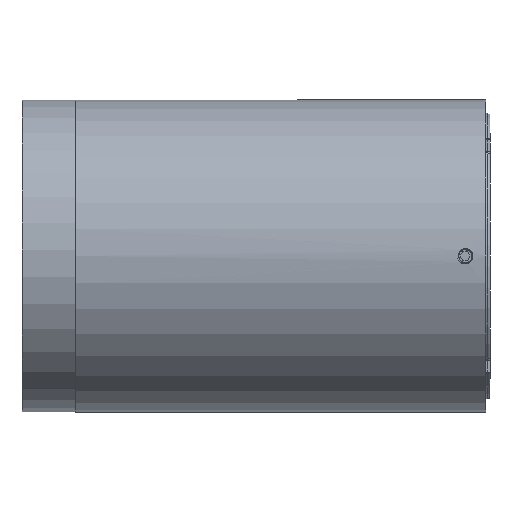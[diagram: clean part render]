
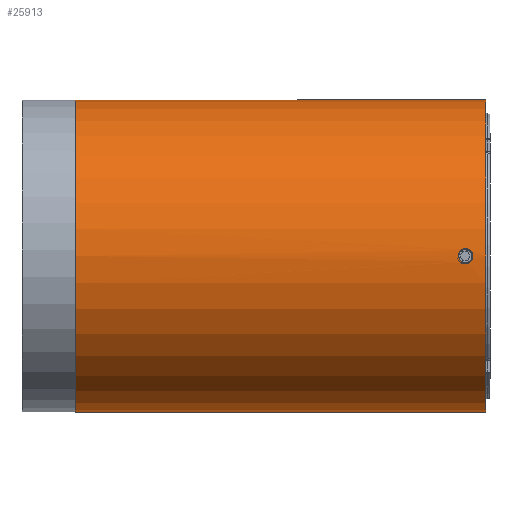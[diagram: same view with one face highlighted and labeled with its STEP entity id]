
A CAD part, left-side view. The second image highlights one B-rep face of the part: STEP entity #25913.
In plain terms, the highlighted cylindrical face has radius 38 mm (diameter 76 mm), a partial arc.
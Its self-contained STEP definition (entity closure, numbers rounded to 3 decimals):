
#1440=B_SPLINE_CURVE_WITH_KNOTS('',3,(#52475,#52476,#52477,#52478,#52479,
#52480,#52481,#52482,#52483,#52484,#52485,#52486,#52487,#52488,#52489,#52490,
#52491,#52492,#52493,#52494,#52495,#52496,#52497,#52498,#52499,#52500,#52501,
#52502),.UNSPECIFIED.,.F.,.F.,(4,3,3,3,3,3,3,3,3,4),(-0.964,
-0.942,-0.87,-0.816,-0.749,
-0.7,-0.629,-0.58,-0.508,
-0.482),.UNSPECIFIED.);
#1441=B_SPLINE_CURVE_WITH_KNOTS('',3,(#52522,#52523,#52524,#52525,#52526,
#52527,#52528,#52529,#52530,#52531,#52532,#52533,#52534,#52535,#52536,#52537,
#52538,#52539,#52540,#52541,#52542,#52543,#52544,#52545,#52546,#52547,#52548,
#52549),.UNSPECIFIED.,.F.,.F.,(4,3,3,3,3,3,3,3,3,4),(0.482,
0.508,0.58,0.629,0.7,
0.749,0.816,0.87,0.942,
0.964),.UNSPECIFIED.);
#1896=FACE_BOUND('',#5046,.T.);
#2285=LINE('',#52518,#2606);
#2286=LINE('',#52521,#2607);
#2606=VECTOR('',#34379,1000.);
#2607=VECTOR('',#34382,1000.);
#2764=CYLINDRICAL_SURFACE('',#28240,38.);
#3280=FACE_OUTER_BOUND('',#5045,.T.);
#5045=EDGE_LOOP('',(#18699,#18700,#18701,#18702));
#5046=EDGE_LOOP('',(#18703,#18704));
#6929=CIRCLE('',#28241,38.);
#6930=CIRCLE('',#28242,38.);
#10341=VERTEX_POINT('',#52472);
#10342=VERTEX_POINT('',#52474);
#10347=VERTEX_POINT('',#52514);
#10348=VERTEX_POINT('',#52515);
#10349=VERTEX_POINT('',#52517);
#10350=VERTEX_POINT('',#52519);
#13387=EDGE_CURVE('',#10341,#10342,#1440,.T.);
#13393=EDGE_CURVE('',#10347,#10348,#6929,.T.);
#13394=EDGE_CURVE('',#10348,#10349,#2285,.T.);
#13395=EDGE_CURVE('',#10350,#10349,#6930,.T.);
#13396=EDGE_CURVE('',#10347,#10350,#2286,.T.);
#13397=EDGE_CURVE('',#10342,#10341,#1441,.T.);
#18699=ORIENTED_EDGE('',*,*,#13393,.T.);
#18700=ORIENTED_EDGE('',*,*,#13394,.T.);
#18701=ORIENTED_EDGE('',*,*,#13395,.F.);
#18702=ORIENTED_EDGE('',*,*,#13396,.F.);
#18703=ORIENTED_EDGE('',*,*,#13397,.F.);
#18704=ORIENTED_EDGE('',*,*,#13387,.F.);
#25913=ADVANCED_FACE('',(#3280,#1896),#2764,.T.);
#28240=AXIS2_PLACEMENT_3D('',#52513,#34375,#34376);
#28241=AXIS2_PLACEMENT_3D('',#52516,#34377,#34378);
#28242=AXIS2_PLACEMENT_3D('',#52520,#34380,#34381);
#34375=DIRECTION('center_axis',(0.,-1.,0.));
#34376=DIRECTION('ref_axis',(0.,0.,
-1.));
#34377=DIRECTION('center_axis',(0.,-1.,0.));
#34378=DIRECTION('ref_axis',(0.,0.,
1.));
#34379=DIRECTION('',(0.,-1.,0.));
#34380=DIRECTION('center_axis',(0.,-1.,0.));
#34381=DIRECTION('ref_axis',(0.,0.,
-1.));
#34382=DIRECTION('',(0.,-1.,0.));
#52472=CARTESIAN_POINT('',(37.966,5.,1.6));
#52474=CARTESIAN_POINT('',(37.966,5.,-1.6));
#52475=CARTESIAN_POINT('Ctrl Pts',(37.966,5.,1.6));
#52476=CARTESIAN_POINT('Ctrl Pts',(37.966,4.924,1.6));
#52477=CARTESIAN_POINT('Ctrl Pts',(37.967,4.846,1.595));
#52478=CARTESIAN_POINT('Ctrl Pts',(37.967,4.767,1.583));
#52479=CARTESIAN_POINT('Ctrl Pts',(37.969,4.521,1.547));
#52480=CARTESIAN_POINT('Ctrl Pts',(37.973,4.274,1.448));
#52481=CARTESIAN_POINT('Ctrl Pts',(37.978,4.071,1.303));
#52482=CARTESIAN_POINT('Ctrl Pts',(37.981,3.918,1.194));
#52483=CARTESIAN_POINT('Ctrl Pts',(37.985,3.791,1.065));
#52484=CARTESIAN_POINT('Ctrl Pts',(37.989,3.684,0.91));
#52485=CARTESIAN_POINT('Ctrl Pts',(37.994,3.553,0.72));
#52486=CARTESIAN_POINT('Ctrl Pts',(37.997,3.461,0.494));
#52487=CARTESIAN_POINT('Ctrl Pts',(37.999,3.422,0.266));
#52488=CARTESIAN_POINT('Ctrl Pts',(38.,3.394,0.098));
#52489=CARTESIAN_POINT('Ctrl Pts',(38.,3.392,-0.065));
#52490=CARTESIAN_POINT('Ctrl Pts',(37.999,3.417,-0.233));
#52491=CARTESIAN_POINT('Ctrl Pts',(37.998,3.453,-0.479));
#52492=CARTESIAN_POINT('Ctrl Pts',(37.994,3.552,-0.725));
#52493=CARTESIAN_POINT('Ctrl Pts',(37.989,3.697,-0.929));
#52494=CARTESIAN_POINT('Ctrl Pts',(37.985,3.796,-1.068));
#52495=CARTESIAN_POINT('Ctrl Pts',(37.982,3.911,-1.185));
#52496=CARTESIAN_POINT('Ctrl Pts',(37.978,4.048,-1.286));
#52497=CARTESIAN_POINT('Ctrl Pts',(37.973,4.247,-1.433));
#52498=CARTESIAN_POINT('Ctrl Pts',(37.969,4.489,-1.536));
#52499=CARTESIAN_POINT('Ctrl Pts',(37.967,4.734,-1.578));
#52500=CARTESIAN_POINT('Ctrl Pts',(37.967,4.823,-1.593));
#52501=CARTESIAN_POINT('Ctrl Pts',(37.966,4.912,-1.6));
#52502=CARTESIAN_POINT('Ctrl Pts',(37.966,5.,-1.6));
#52513=CARTESIAN_POINT('Origin',(0.,0.,0.));
#52514=CARTESIAN_POINT('',(0.,100.,-38.));
#52515=CARTESIAN_POINT('',(0.,100.,38.));
#52516=CARTESIAN_POINT('Origin',(0.,100.,0.));
#52517=CARTESIAN_POINT('',(0.,0.,38.));
#52518=CARTESIAN_POINT('',(0.,0.,38.));
#52519=CARTESIAN_POINT('',(0.,0.,-38.));
#52520=CARTESIAN_POINT('Origin',(0.,0.,
0.));
#52521=CARTESIAN_POINT('',(0.,0.,-38.));
#52522=CARTESIAN_POINT('Ctrl Pts',(37.966,5.,-1.6));
#52523=CARTESIAN_POINT('Ctrl Pts',(37.966,5.088,-1.6));
#52524=CARTESIAN_POINT('Ctrl Pts',(37.967,5.177,-1.593));
#52525=CARTESIAN_POINT('Ctrl Pts',(37.967,5.266,-1.578));
#52526=CARTESIAN_POINT('Ctrl Pts',(37.969,5.511,-1.536));
#52527=CARTESIAN_POINT('Ctrl Pts',(37.973,5.753,-1.433));
#52528=CARTESIAN_POINT('Ctrl Pts',(37.978,5.952,-1.286));
#52529=CARTESIAN_POINT('Ctrl Pts',(37.982,6.089,-1.185));
#52530=CARTESIAN_POINT('Ctrl Pts',(37.985,6.204,-1.068));
#52531=CARTESIAN_POINT('Ctrl Pts',(37.989,6.303,-0.929));
#52532=CARTESIAN_POINT('Ctrl Pts',(37.994,6.448,-0.725));
#52533=CARTESIAN_POINT('Ctrl Pts',(37.998,6.547,-0.479));
#52534=CARTESIAN_POINT('Ctrl Pts',(37.999,6.583,-0.233));
#52535=CARTESIAN_POINT('Ctrl Pts',(38.,6.608,-0.065));
#52536=CARTESIAN_POINT('Ctrl Pts',(38.,6.606,0.098));
#52537=CARTESIAN_POINT('Ctrl Pts',(37.999,6.578,0.266));
#52538=CARTESIAN_POINT('Ctrl Pts',(37.997,6.539,0.494));
#52539=CARTESIAN_POINT('Ctrl Pts',(37.994,6.447,0.72));
#52540=CARTESIAN_POINT('Ctrl Pts',(37.989,6.316,0.91));
#52541=CARTESIAN_POINT('Ctrl Pts',(37.985,6.209,1.065));
#52542=CARTESIAN_POINT('Ctrl Pts',(37.981,6.082,1.194));
#52543=CARTESIAN_POINT('Ctrl Pts',(37.978,5.929,1.303));
#52544=CARTESIAN_POINT('Ctrl Pts',(37.973,5.726,1.448));
#52545=CARTESIAN_POINT('Ctrl Pts',(37.969,5.479,1.547));
#52546=CARTESIAN_POINT('Ctrl Pts',(37.967,5.233,1.583));
#52547=CARTESIAN_POINT('Ctrl Pts',(37.967,5.154,1.595));
#52548=CARTESIAN_POINT('Ctrl Pts',(37.966,5.076,1.6));
#52549=CARTESIAN_POINT('Ctrl Pts',(37.966,5.,1.6));
